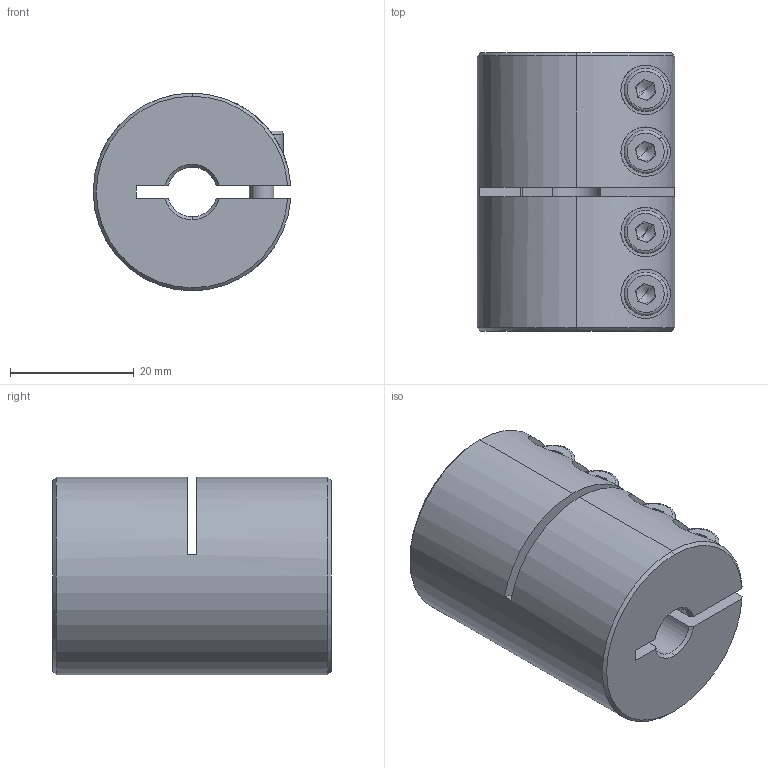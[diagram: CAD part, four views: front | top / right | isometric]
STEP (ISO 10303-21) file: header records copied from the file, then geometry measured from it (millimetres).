
FILE_DESCRIPTION (( 'STEP AP214' ), '1' );
FILE_NAME ('LL-B-D32L45-8-8½¨Ä£.STEP', '2022-07-21T07:00:08', ( '' ), ( '' ), 'SwSTEP 2.0', 'SolidWorks 2022', '' );
FILE_SCHEMA (( 'AUTOMOTIVE_DESIGN' ));
Length unit declared in the file: millimetre
Products named in the file (1): LL-B-D32L45-8-8膘耀
Bounding box: 31.97 x 45 x 32 mm (x, y, z)
Volume: 31141.5 mm3; surface area: 10727.9 mm2
Topology: 1 solids, 1 shells, 188 faces, 477 edges, 299 vertices
Faces by surface type: plane 86, cylinder 74, cone 20, torus 8
Entity records: 6186 total; most frequent: CARTESIAN_POINT 1553, DIRECTION 1006, ORIENTED_EDGE 938, EDGE_CURVE 469, AXIS2_PLACEMENT_3D 392, VERTEX_POINT 299, VECTOR 222, LINE 222
